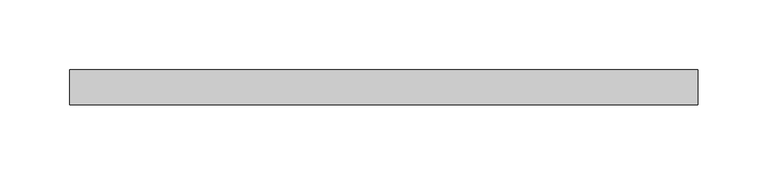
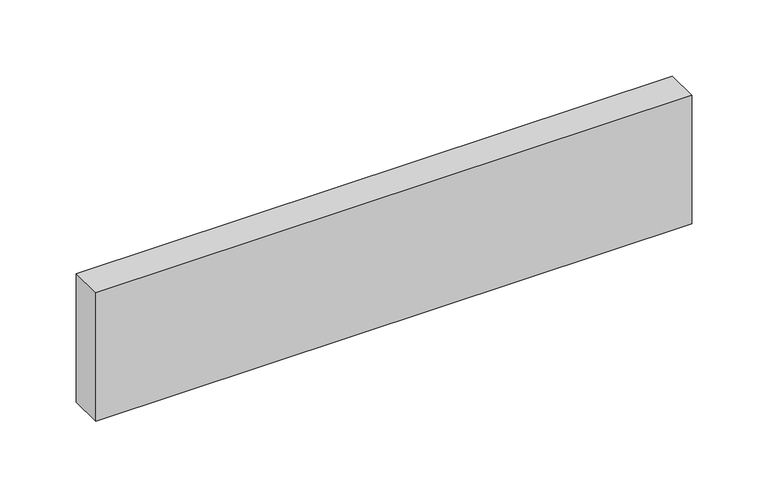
"""IFC4 building model written with IfcOpenShell, lengths in millimetres: plate geometry, Системная панель : С остеклением."""

from ifc_helpers import new_model, si_unit, origin, origin_with_axes, place, context, project, spatial, polyline, outline, extrude, source, transform, mapped, element, save


def plate_30ae563e(model_context):
    return source(origin(), model_context, "Body", "SweptSolid", [
        extrude(outline(polyline([(225.0, 24.5), (-225.0, 24.5), (-225.0, 49.5), (225.0, 49.5), (225.0, 24.5)])), origin_with_axes(), (0.0, 0.0, 1.0), 102.4004922),
    ])


if __name__ == "__main__":
    model = new_model("IFC4")
    model_context = context("Model", 3, world=origin())
    ifc_project = project(units=[si_unit("LENGTHUNIT", "METRE", prefix="MILLI")], contexts=[model_context])
    site = spatial("IfcSite", under=ifc_project)
    building = spatial("IfcBuilding", under=site)
    placement = place(None, origin())
    plate_shape = plate_30ae563e(model_context)
    element("IfcPlate", 1, ObjectType="Системная панель : С остеклением", at=placement, inside=building, context=model_context, shape_type="MappedRepresentation", body=[
        mapped(plate_shape, transform((0.0, 0.0, 0.0), x_axis=(1.0, 0.0, 0.0), y_axis=(0.0, 1.0, 0.0), z_axis=(0.0, 0.0, 1.0))),
    ])
    save(model, "model.ifc")
